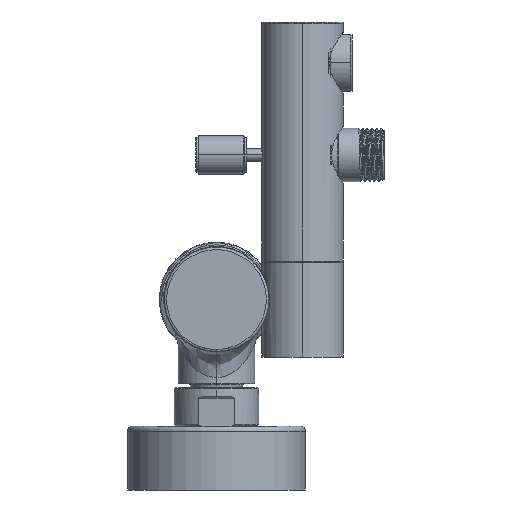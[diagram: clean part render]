
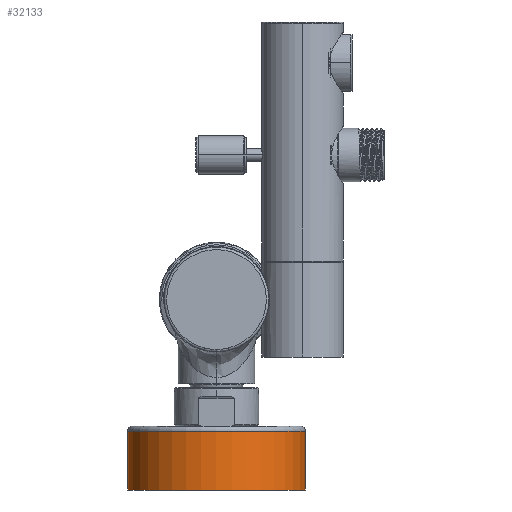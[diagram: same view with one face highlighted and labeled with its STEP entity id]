
A CAD part, left-side view. The second image highlights one B-rep face of the part: STEP entity #32133.
In plain terms, the highlighted cylindrical face has radius 34.75 mm (diameter 69.5 mm), a partial arc.
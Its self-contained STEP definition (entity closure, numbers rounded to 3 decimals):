
#11156=CARTESIAN_POINT('',(-75.,0.,-74.5));
#11157=DIRECTION('',(0.,0.,1.));
#11158=DIRECTION('',(0.,1.,0.));
#11159=AXIS2_PLACEMENT_3D('',#11156,#11157,#11158);
#11161=DIRECTION('',(0.,0.,-1.));
#11162=VECTOR('',#11161,23.);
#11163=CARTESIAN_POINT('',(-75.,34.75,-51.5));
#11164=LINE('',#11163,#11162);
#11165=DIRECTION('',(0.,0.,-1.));
#11166=VECTOR('',#11165,23.);
#11167=CARTESIAN_POINT('',(-75.,-34.75,-51.5));
#11168=LINE('',#11167,#11166);
#11174=CARTESIAN_POINT('',(-75.,0.,-51.5));
#11175=DIRECTION('',(0.,0.,1.));
#11176=DIRECTION('',(0.,1.,0.));
#11177=AXIS2_PLACEMENT_3D('',#11174,#11175,#11176);
#23078=CARTESIAN_POINT('',(-75.,34.75,-51.5));
#23080=VERTEX_POINT('',#23078);
#23081=CARTESIAN_POINT('',(-75.,34.75,-74.5));
#23082=VERTEX_POINT('',#23081);
#23100=CARTESIAN_POINT('',(-75.,-34.75,-51.5));
#23102=VERTEX_POINT('',#23100);
#23103=CARTESIAN_POINT('',(-75.,-34.75,-74.5));
#23104=VERTEX_POINT('',#23103);
#32121=CARTESIAN_POINT('',(-75.,0.,-75.75));
#32122=DIRECTION('',(0.,0.,1.));
#32123=DIRECTION('',(0.,-1.,0.));
#32124=AXIS2_PLACEMENT_3D('',#32121,#32122,#32123);
#32125=CYLINDRICAL_SURFACE('',#32124,34.75);
#32126=ORIENTED_EDGE('',*,*,#32111,.F.);
#32128=ORIENTED_EDGE('',*,*,#32127,.T.);
#32129=ORIENTED_EDGE('',*,*,#32114,.T.);
#32130=ORIENTED_EDGE('',*,*,#32097,.F.);
#32131=EDGE_LOOP('',(#32126,#32128,#32129,#32130));
#32132=FACE_OUTER_BOUND('',#32131,.F.);
#32133=ADVANCED_FACE('',(#32132),#32125,.T.);
#11160=CIRCLE('',#11159,34.75);
#11178=CIRCLE('',#11177,34.75);
#32097=EDGE_CURVE('',#23082,#23104,#11160,.T.);
#32111=EDGE_CURVE('',#23080,#23082,#11164,.T.);
#32114=EDGE_CURVE('',#23102,#23104,#11168,.T.);
#32127=EDGE_CURVE('',#23080,#23102,#11178,.T.);
